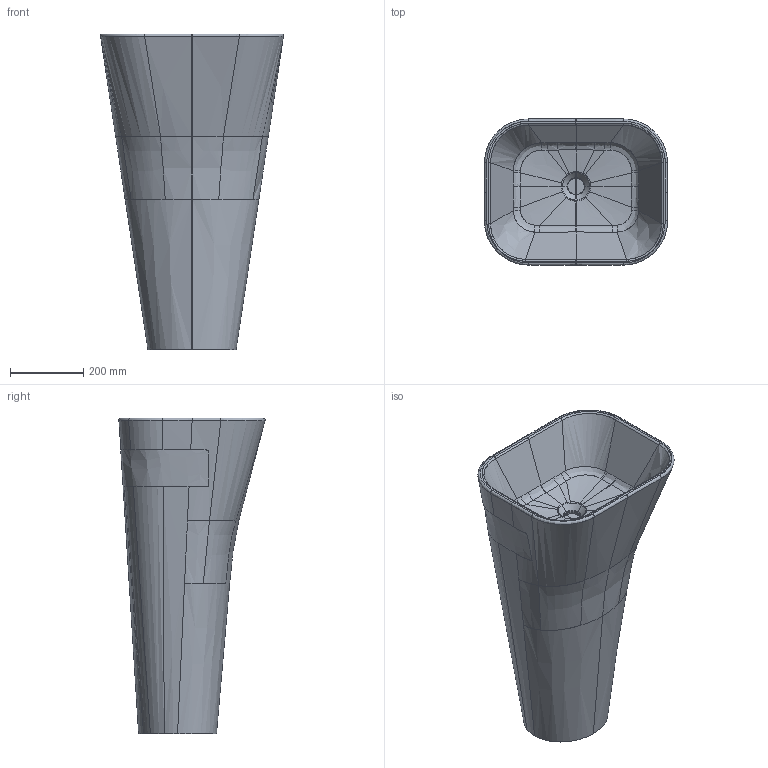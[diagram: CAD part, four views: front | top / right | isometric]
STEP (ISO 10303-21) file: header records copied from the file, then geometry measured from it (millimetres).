
FILE_DESCRIPTION(('CATIA V5 STEP Exchange'),'2;1');
FILE_NAME('C:\Users\167035\Downloads\3D ART 5405 Monolite MEG.stp','2024-02-07T09:58:28+00:00',('none'),('none'),'CATIA Version 5 Release 19 SP 5 (IN-10)','CATIA V5 STEP AP214','none');
FILE_SCHEMA(('AUTOMOTIVE_DESIGN { 1 0 10303 214 1 1 1 1 }'));
Length unit declared in the file: millimetre
Products named in the file (1): Part2
Bounding box: 498.28 x 397.88 x 860 mm (x, y, z)
Surface area: 1290863.6 mm2 (no closed solid volume)
Topology: 0 solids, 146 shells, 146 faces, 728 edges, 728 vertices
Faces by surface type: bspline 122, cylinder 12, plane 8, revolution 4
Entity records: 29586 total; most frequent: CARTESIAN_POINT 24532, ORIENTED_EDGE 728, EDGE_CURVE 728, VERTEX_POINT 728, B_SPLINE_CURVE_WITH_KNOTS 656, STYLED_ITEM 146, PRESENTATION_STYLE_ASSIGNMENT 146, SURFACE_STYLE_USAGE 146
